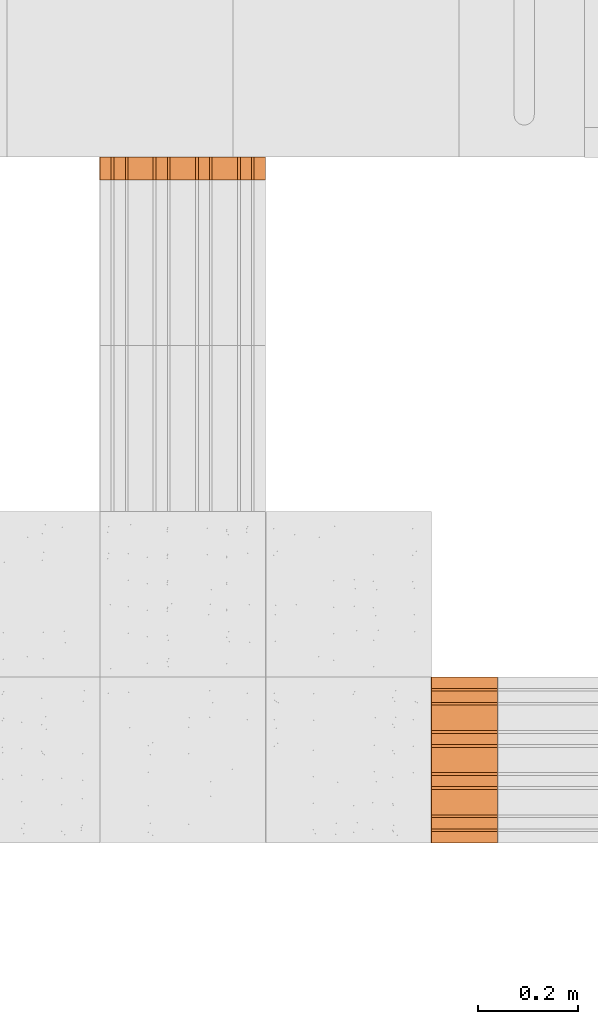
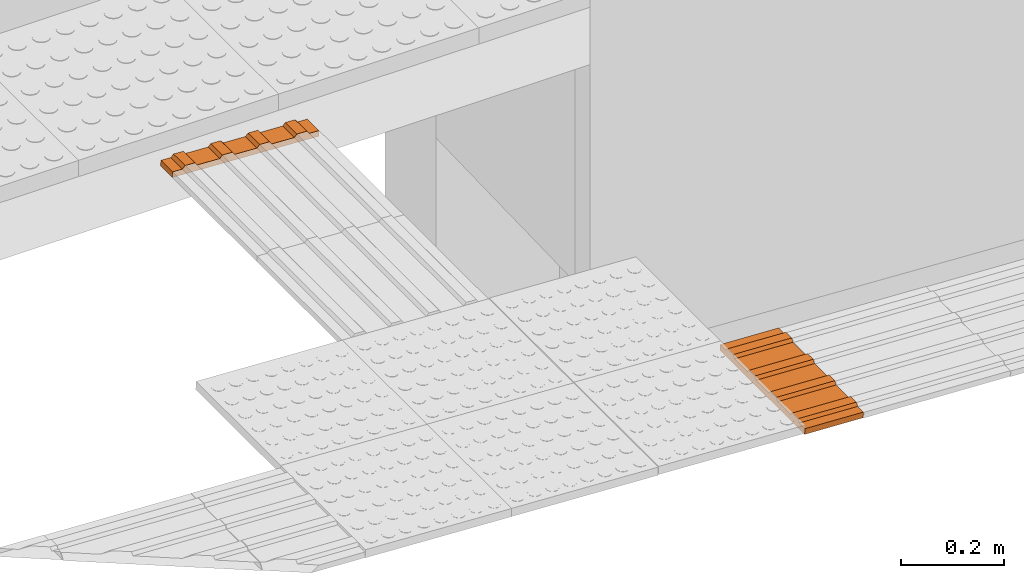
# One storey, part 217 of 237: 2 proxies.
"""IFC2X3 building model written with IfcOpenShell, lengths in millimetres."""

import ifcopenshell
import ifcopenshell.guid

model = None  # the IFC model being written
_history = None  # IfcOwnerHistory: only IFC2X3 demands one
_inside = {}  # id of a spatial element -> (the spatial element, [elements in it])
_under = {}  # id of a project, library or spatial element -> (it, [spatial elements below it])
_declared = {}  # id of a project -> (the project, [libraries it declares])
_typed = {}  # id of a type object -> (the type object, [elements of that type])
_made_of = {}  # id of a material, layer set ... -> (it, [elements and type objects made of it])


def new_model(schema):
    """Start an empty IFC model of exactly this schema.

    Asked for "IFC4X3", IfcOpenShell would pick the latest addendum, in which some entities
    have other attributes; the version numbers below select the first issue.
    IFC2X3 requires an IfcOwnerHistory on every rooted entity: one is made here for all.
    """
    global model, _history
    if schema == "IFC4X3":
        model = ifcopenshell.file(schema_version=(4, 3, 0, 0))
    else:
        model = ifcopenshell.file(schema=schema)
    _inside.clear()
    _under.clear()
    _declared.clear()
    _typed.clear()
    _made_of.clear()
    _history = None
    if model.schema == "IFC2X3":
        org = make("IfcOrganization", Name="unknown")
        user = make(
            "IfcPersonAndOrganization",
            ThePerson=make("IfcPerson", FamilyName="unknown"),
            TheOrganization=org,
        )
        app = make(
            "IfcApplication",
            ApplicationDeveloper=org,
            Version="unknown",
            ApplicationFullName="unknown",
            ApplicationIdentifier="unknown",
        )
        _history = make(
            "IfcOwnerHistory",
            OwningUser=user,
            OwningApplication=app,
            ChangeAction="ADDED",
            CreationDate=0,
        )
    return model


def make(cls, **values):
    """One entity of the class cls with the attributes given. An attribute that is None is left unset."""
    return model.create_entity(
        cls, **{name: value for name, value in values.items() if value is not None}
    )


def entity(cls, *values):
    """Any entity or typed value of the class cls, its attributes in the order of the schema. None: left unset."""
    e = model.create_entity(cls)
    for i, value in enumerate(values):
        if value is not None:
            e[i] = value
    return e


def rooted(cls, **values):
    """An entity with a GlobalId (a new one), such as an element, a storey or a relation."""
    return make(cls, GlobalId=ifcopenshell.guid.new(), OwnerHistory=_history, **values)


def si_unit(unit_type, name, prefix=None):
    """IfcSIUnit, for example si_unit("LENGTHUNIT", "METRE", prefix="MILLI")."""
    return make("IfcSIUnit", UnitType=unit_type, Prefix=prefix, Name=name)


def converted_unit(unit_type, name, factor, base, dimensions=None, offset=None):
    """IfcConversionBasedUnit, such as the inch: factor (a typed value) times the base unit."""
    return make(
        "IfcConversionBasedUnit"
        if offset is None
        else "IfcConversionBasedUnitWithOffset",
        ConversionOffset=offset,
        Dimensions=None
        if dimensions is None
        else entity("IfcDimensionalExponents", *dimensions),
        UnitType=unit_type,
        Name=name,
        ConversionFactor=make(
            "IfcMeasureWithUnit", ValueComponent=factor, UnitComponent=base
        ),
    )


def derived_unit(unit_type, elements):
    """IfcDerivedUnit: a product of units, each with its exponent."""
    return make(
        "IfcDerivedUnit",
        Elements=[
            make("IfcDerivedUnitElement", Unit=unit, Exponent=power)
            for unit, power in elements
        ],
        UnitType=unit_type,
    )


def money_unit(currency):
    """IfcMonetaryUnit."""
    return make("IfcMonetaryUnit", Currency=currency)


def assignment(units):
    """IfcUnitAssignment: the units of a project."""
    return None if units is None else make("IfcUnitAssignment", Units=units)


def point(xyz):
    """IfcCartesianPoint."""
    return None if xyz is None else make("IfcCartesianPoint", Coordinates=xyz)


def direction(xyz):
    """IfcDirection."""
    return None if xyz is None else make("IfcDirection", DirectionRatios=xyz)


def frame(location, z_axis=None, x_axis=None):
    """IfcAxis2Placement3D, a coordinate frame: its origin and axes. An axis left out is left unset."""
    return make(
        "IfcAxis2Placement3D",
        Location=point(location),
        Axis=direction(z_axis),
        RefDirection=direction(x_axis),
    )


def origin_with_axes():
    """The frame at (0, 0, 0) with the z axis (0, 0, 1) and the x axis (1, 0, 0) written out."""
    return frame((0.0, 0.0, 0.0), z_axis=(0.0, 0.0, 1.0), x_axis=(1.0, 0.0, 0.0))


def place(relative_to, where):
    """IfcLocalPlacement: puts the frame where relative to a parent placement (None: the world)."""
    return make(
        "IfcLocalPlacement", PlacementRelTo=relative_to, RelativePlacement=where
    )


def context(
    kind, dimensions, precision=None, world=None, true_north=None, identifier=None
):
    """IfcGeometricRepresentationContext, for example the 3D "Model" context."""
    return make(
        "IfcGeometricRepresentationContext",
        ContextIdentifier=identifier,
        ContextType=kind,
        CoordinateSpaceDimension=dimensions,
        Precision=precision,
        WorldCoordinateSystem=world,
        TrueNorth=true_north,
    )


def subcontext(parent, identifier, kind, view, scale=None):
    """IfcGeometricRepresentationSubContext, for example "Body" below "Model"."""
    return make(
        "IfcGeometricRepresentationSubContext",
        ContextIdentifier=identifier,
        ContextType=kind,
        ParentContext=parent,
        TargetScale=scale,
        TargetView=view,
    )


def project(units=None, contexts=None):
    """IfcProject with its units and contexts."""
    return rooted(
        "IfcProject",
        Name="project",
        RepresentationContexts=contexts,
        UnitsInContext=assignment(units),
    )


def spatial(cls, under=None, at=None, **own):
    """A site, building, storey or space (cls), placed at a placement, below another one or the project."""
    s = rooted(cls, ObjectPlacement=at, **own)
    if under is not None:
        _under.setdefault(under.id(), (under, []))[1].append(s)
    return s


def faces_of(points, faces, orient=None, outer=None):
    """IfcFace entities. A face is a list of loops; a loop is a list of indices into points, from 0.

    orient and outer hold one flag for each loop. By default every Orientation is true, the
    first loop of a face is its IfcFaceOuterBound and the others are IfcFaceBound.
    """
    made = []
    for i, loops in enumerate(faces):
        bounds = []
        for j, loop in enumerate(loops):
            is_outer = j == 0 if outer is None else outer[i][j]
            bounds.append(
                make(
                    "IfcFaceOuterBound" if is_outer else "IfcFaceBound",
                    Bound=make("IfcPolyLoop", Polygon=[points[k] for k in loop]),
                    Orientation=True if orient is None else orient[i][j],
                )
            )
        made.append(make("IfcFace", Bounds=bounds))
    return made


def open_shell(faces, orient=None, outer=None):
    """The faces of one IfcOpenShell. surface_model builds it on its shared points."""
    return ("IfcOpenShell", faces, orient, outer)


def surface_model(cls, points, shells):
    """IfcFaceBasedSurfaceModel or IfcShellBasedSurfaceModel (cls): surfaces that need not close."""
    shared = [point(p) for p in points]
    made = [make(c, CfsFaces=faces_of(shared, fs, o, b)) for c, fs, o, b in shells]
    if cls == "IfcFaceBasedSurfaceModel":
        return make(cls, FbsmFaces=made)
    return make(cls, SbsmBoundary=made)


def shape(context_of_items, identifier, shape_type, items):
    """IfcShapeRepresentation: the items that make up one representation, for example the "Body"."""
    return make(
        "IfcShapeRepresentation",
        ContextOfItems=context_of_items,
        RepresentationIdentifier=identifier,
        RepresentationType=shape_type,
        Items=items,
    )


def made_of(thing, what):
    """Note that an element or type object is made of a material, layer set ...; save() writes the relation."""
    if what is not None:
        _made_of.setdefault(what.id(), (what, []))[1].append(thing)
    return thing


def type_object(cls, material=None, **own):
    """A type object (cls), such as IfcWallType, which elements share."""
    return made_of(rooted(cls, **own), material)


def element(
    cls,
    number,
    at=None,
    inside=None,
    cuts=None,
    type_object=None,
    material=None,
    context=None,
    identifier="Body",
    shape_type=None,
    held_by="IfcProductDefinitionShape",
    body=None,
    shapes=None,
    **own,
):
    """One element of the class cls, such as IfcWall. Its Tag is "e" and its number.

    at: its placement. inside: the storey or other place that contains it. cuts: it is an
    opening in that element (IfcRelVoidsElement). A single representation is given by context,
    identifier, shape_type and body (its items); several are given by shapes. held_by: the class
    of the entity that holds the representations. save() writes the other relations.
    """
    e = rooted(cls, Tag="e%d" % number, ObjectPlacement=at, **own)
    if body is not None:
        shapes = [shape(context, identifier, shape_type, body)]
    if shapes is not None:
        e.Representation = make(held_by, Representations=shapes)
    if inside is not None:
        _inside.setdefault(inside.id(), (inside, []))[1].append(e)
    if cuts is not None:
        rooted(
            "IfcRelVoidsElement", RelatingBuildingElement=cuts, RelatedOpeningElement=e
        )
    if type_object is not None:
        _typed.setdefault(type_object.id(), (type_object, []))[1].append(e)
    return made_of(e, material)


def aggregate(whole, parts):
    """IfcRelAggregates: a whole, such as a stair, and the parts it consists of."""
    return rooted("IfcRelAggregates", RelatingObject=whole, RelatedObjects=parts)


def save(model, path):
    """Write the relations noted so far, then the file.

    IfcRelAggregates (storeys below a building ...), IfcRelContainedInSpatialStructure (elements
    in a storey), IfcRelDefinesByType, IfcRelAssociatesMaterial and IfcRelDeclares: one each for
    every whole, place, type object, material and project.
    """
    for whole, parts in _under.values():
        aggregate(whole, parts)
    for where, things in _inside.values():
        rooted(
            "IfcRelContainedInSpatialStructure",
            RelatedElements=things,
            RelatingStructure=where,
        )
    for kind, things in _typed.values():
        rooted("IfcRelDefinesByType", RelatedObjects=things, RelatingType=kind)
    for what, things in _made_of.values():
        rooted("IfcRelAssociatesMaterial", RelatedObjects=things, RelatingMaterial=what)
    for by, libraries in _declared.values():
        rooted("IfcRelDeclares", RelatingContext=by, RelatedDefinitions=libraries)
    model.write(path)


model = new_model("IFC2X3")

# Units and contexts
model_context = context("Model", 3, precision=0.01, world=origin_with_axes(), true_north=direction((0.0, 1.0)))
body_context = subcontext(model_context, "Body", "Model", "MODEL_VIEW")
ifc_project = project(units=[si_unit("LENGTHUNIT", "METRE", prefix="MILLI"), si_unit("AREAUNIT", "SQUARE_METRE"), si_unit("VOLUMEUNIT", "CUBIC_METRE"), converted_unit("PLANEANGLEUNIT", "DEGREE", entity("IfcPlaneAngleMeasure", 0.0174532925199), si_unit("PLANEANGLEUNIT", "RADIAN"), dimensions=[0, 0, 0, 0, 0, 0, 0]), money_unit("USD"), converted_unit("TIMEUNIT", "Year", entity("IfcTimeMeasure", 31556926.0), si_unit("TIMEUNIT", "SECOND"), dimensions=[0, 0, 1, 0, 0, 0, 0]), si_unit("MASSUNIT", "GRAM", prefix="KILO"), si_unit("THERMODYNAMICTEMPERATUREUNIT", "DEGREE_CELSIUS"), si_unit("LUMINOUSINTENSITYUNIT", "LUMEN"), si_unit("ENERGYUNIT", "JOULE", prefix="MEGA"), derived_unit("THERMALCONDUCTANCEUNIT", [(si_unit("POWERUNIT", "WATT"), 1), (si_unit("LENGTHUNIT", "METRE"), -1), (si_unit("THERMODYNAMICTEMPERATUREUNIT", "KELVIN"), -1)]), derived_unit("SPECIFICHEATCAPACITYUNIT", [(si_unit("ENERGYUNIT", "JOULE"), 1), (si_unit("MASSUNIT", "GRAM", prefix="KILO"), -1), (si_unit("THERMODYNAMICTEMPERATUREUNIT", "KELVIN"), -1)]), derived_unit("MASSDENSITYUNIT", [(si_unit("MASSUNIT", "GRAM", prefix="KILO"), 1), (si_unit("VOLUMEUNIT", "CUBIC_METRE"), -1)])], contexts=[model_context])

# Site, building, storey
site_placement = place(None, origin_with_axes())
site = spatial("IfcSite", under=ifc_project, at=site_placement, Name="Local", CompositionType="ELEMENT")
building_placement = place(site_placement, origin_with_axes())
building = spatial("IfcBuilding", under=site, at=building_placement, Name="Construção", CompositionType="ELEMENT")
storey_placement = place(building_placement, origin_with_axes())
storey = spatial("IfcBuildingStorey", under=building, at=storey_placement, Name="Pavimento Térreo", CompositionType="ELEMENT", Elevation=0.0)

# Proxies
building_element_proxy_type = type_object("IfcBuildingElementProxyType", Name="Piso Direcional 27", PredefinedType="NOTDEFINED")
proxy_1_placement = place(storey_placement, frame((41988.6697517, 10834.0941893, -3144.01574893), z_axis=(0.0, 0.0, 1.0), x_axis=(-1.0, 0.0, 0.0)))
element("IfcBuildingElementProxy", 1, at=proxy_1_placement, inside=storey, type_object=building_element_proxy_type, Name="Objeto-0055", context=body_context, shape_type="SurfaceModel", body=[
    surface_model("IfcShellBasedSurfaceModel", [(-0.196792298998, -47.258225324, 4.02371099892), (131.320909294, -47.258225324, 10.4559997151), (130.995244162, -41.665004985, 17.1147072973), (-0.522457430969, -41.665004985, 10.6824185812)], [open_shell([[[0, 1, 2, 3]]])]),
    surface_model("IfcShellBasedSurfaceModel", [(131.972239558, -153.529411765, -2.86141544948), (131.972239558, 176.470588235, -2.86141544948), (131.320909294, 176.470588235, 10.4559997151), (131.320909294, 154.097706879, 10.4559997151), (130.995244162, 148.50448654, 17.1147072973), (130.995244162, 126.131605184, 17.1147072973), (131.320909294, 120.538384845, 10.4559997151), (131.320909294, 70.1994017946, 10.4559997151), (130.995244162, 64.6061814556, 17.1147072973), (130.995244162, 42.2333000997, 17.1147072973), (131.320909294, 36.6400797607, 10.4559997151), (131.320909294, -13.6989032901, 10.4559997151), (130.995244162, -19.2921236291, 17.1147072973), (130.995244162, -41.665004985, 17.1147072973), (131.320909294, -47.258225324, 10.4559997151), (131.320909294, -97.5972083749, 10.4559997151), (130.995244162, -103.190428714, 17.1147072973), (130.995244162, -125.56331007, 17.1147072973), (131.320909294, -131.156530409, 10.4559997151), (131.320909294, -153.529411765, 10.4559997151)], [open_shell([[[0, 1, 2, 3, 4, 5, 6, 7, 8, 9, 10, 11, 12, 13, 14, 15, 16, 17, 18, 19]]])]),
    surface_model("IfcShellBasedSurfaceModel", [(-0.522457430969, -19.2921236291, 10.6824185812), (130.995244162, -19.2921236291, 17.1147072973), (131.320909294, -13.6989032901, 10.4559997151), (-0.196792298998, -13.6989032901, 4.02371099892)], [open_shell([[[0, 1, 2, 3]]])]),
    surface_model("IfcShellBasedSurfaceModel", [(-0.522457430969, -103.190428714, 10.6824185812), (130.995244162, -103.190428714, 17.1147072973), (131.320909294, -97.5972083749, 10.4559997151), (-0.196792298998, -97.5972083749, 4.02371099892)], [open_shell([[[0, 1, 2, 3]]])]),
    surface_model("IfcShellBasedSurfaceModel", [(-0.522457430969, 64.6061814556, 10.6824185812), (130.995244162, 64.6061814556, 17.1147072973), (131.320909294, 70.1994017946, 10.4559997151), (-0.196792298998, 70.1994017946, 4.02371099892)], [open_shell([[[0, 1, 2, 3]]])]),
    surface_model("IfcShellBasedSurfaceModel", [(-0.196792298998, 36.6400797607, 4.02371099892), (131.320909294, 36.6400797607, 10.4559997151), (130.995244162, 42.2333000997, 17.1147072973), (-0.522457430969, 42.2333000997, 10.6824185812)], [open_shell([[[0, 1, 2, 3]]])]),
    surface_model("IfcShellBasedSurfaceModel", [(-0.196792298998, -131.156530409, 4.02371099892), (131.320909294, -131.156530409, 10.4559997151), (130.995244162, -125.56331007, 17.1147072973), (-0.522457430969, -125.56331007, 10.6824185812)], [open_shell([[[0, 1, 2, 3]]])]),
    surface_model("IfcShellBasedSurfaceModel", [(-0.196792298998, 176.470588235, 4.02371099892), (-0.196792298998, 154.097706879, 4.02371099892), (131.320909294, 154.097706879, 10.4559997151), (131.320909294, 176.470588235, 10.4559997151)], [open_shell([[[0, 1, 2, 3]]])]),
    surface_model("IfcShellBasedSurfaceModel", [(-0.196792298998, 120.538384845, 4.02371099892), (131.320909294, 120.538384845, 10.4559997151), (130.995244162, 126.131605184, 17.1147072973), (-0.522457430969, 126.131605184, 10.6824185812)], [open_shell([[[0, 1, 2, 3]]])]),
    surface_model("IfcShellBasedSurfaceModel", [(-0.522457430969, 148.50448654, 10.6824185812), (130.995244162, 148.50448654, 17.1147072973), (131.320909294, 154.097706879, 10.4559997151), (-0.196792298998, 154.097706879, 4.02371099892)], [open_shell([[[0, 1, 2, 3]]])]),
    surface_model("IfcShellBasedSurfaceModel", [(-0.196792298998, 36.6400797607, 4.02371099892), (-0.196792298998, -13.6989032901, 4.02371099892), (131.320909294, -13.6989032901, 10.4559997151), (131.320909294, 36.6400797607, 10.4559997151)], [open_shell([[[0, 1, 2, 3]]])]),
    surface_model("IfcShellBasedSurfaceModel", [(-0.196792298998, 120.538384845, 4.02371099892), (-0.196792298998, 70.1994017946, 4.02371099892), (131.320909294, 70.1994017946, 10.4559997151), (131.320909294, 120.538384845, 10.4559997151)], [open_shell([[[0, 1, 2, 3]]])]),
    surface_model("IfcShellBasedSurfaceModel", [(-0.522457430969, 148.50448654, 10.6824185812), (-0.522457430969, 126.131605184, 10.6824185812), (130.995244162, 126.131605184, 17.1147072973), (130.995244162, 148.50448654, 17.1147072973)], [open_shell([[[0, 1, 2, 3]]])]),
    surface_model("IfcShellBasedSurfaceModel", [(-0.196792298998, 120.538384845, 4.02371099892), (-0.522457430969, 126.131605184, 10.6824185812), (-0.522457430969, 148.50448654, 10.6824185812), (-0.196792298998, 154.097706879, 4.02371099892), (-0.196792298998, 176.470588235, 4.02371099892), (0.454537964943, 176.470588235, -9.29370416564), (0.454537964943, -153.529411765, -9.29370416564), (-0.196792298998, -153.529411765, 4.02371099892), (-0.196792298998, -131.156530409, 4.02371099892), (-0.522457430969, -125.56331007, 10.6824185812), (-0.522457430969, -103.190428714, 10.6824185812), (-0.196792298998, -97.5972083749, 4.02371099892), (-0.196792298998, -47.258225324, 4.02371099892), (-0.522457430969, -41.665004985, 10.6824185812), (-0.522457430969, -19.2921236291, 10.6824185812), (-0.196792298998, -13.6989032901, 4.02371099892), (-0.196792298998, 36.6400797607, 4.02371099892), (-0.522457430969, 42.2333000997, 10.6824185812), (-0.522457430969, 64.6061814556, 10.6824185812), (-0.196792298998, 70.1994017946, 4.02371099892)], [open_shell([[[0, 1, 2, 3, 4, 5, 6, 7, 8, 9, 10, 11, 12, 13, 14, 15, 16, 17, 18, 19]]])]),
    surface_model("IfcShellBasedSurfaceModel", [(130.995244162, -41.665004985, 17.1147072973), (130.995244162, -19.2921236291, 17.1147072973), (-0.522457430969, -19.2921236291, 10.6824185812), (-0.522457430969, -41.665004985, 10.6824185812)], [open_shell([[[0, 1, 2, 3]]])]),
    surface_model("IfcShellBasedSurfaceModel", [(-0.196792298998, -47.258225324, 4.02371099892), (-0.196792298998, -97.5972083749, 4.02371099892), (131.320909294, -97.5972083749, 10.4559997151), (131.320909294, -47.258225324, 10.4559997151)], [open_shell([[[0, 1, 2, 3]]])]),
    surface_model("IfcShellBasedSurfaceModel", [(130.995244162, 42.2333000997, 17.1147072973), (130.995244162, 64.6061814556, 17.1147072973), (-0.522457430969, 64.6061814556, 10.6824185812), (-0.522457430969, 42.2333000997, 10.6824185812)], [open_shell([[[0, 1, 2, 3]]])]),
    surface_model("IfcShellBasedSurfaceModel", [(130.995244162, -125.56331007, 17.1147072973), (130.995244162, -103.190428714, 17.1147072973), (-0.522457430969, -103.190428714, 10.6824185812), (-0.522457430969, -125.56331007, 10.6824185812)], [open_shell([[[0, 1, 2, 3]]])]),
    surface_model("IfcShellBasedSurfaceModel", [(131.972239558, 176.470588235, -2.86141544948), (0.454537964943, 176.470588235, -9.29370416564), (-0.196792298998, 176.470588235, 4.02371099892), (131.320909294, 176.470588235, 10.4559997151)], [open_shell([[[0, 1, 2, 3]]])]),
    surface_model("IfcShellBasedSurfaceModel", [(131.972239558, -153.529411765, -2.86141544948), (0.454537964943, -153.529411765, -9.29370416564), (0.454537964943, 176.470588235, -9.29370416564), (131.972239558, 176.470588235, -2.86141544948)], [open_shell([[[0, 1, 2, 3]]])]),
    surface_model("IfcShellBasedSurfaceModel", [(131.320909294, -153.529411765, 10.4559997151), (131.320909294, -131.156530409, 10.4559997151), (-0.196792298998, -131.156530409, 4.02371099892), (-0.196792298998, -153.529411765, 4.02371099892)], [open_shell([[[0, 1, 2, 3]]])]),
    surface_model("IfcShellBasedSurfaceModel", [(0.454537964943, -153.529411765, -9.29370416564), (131.972239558, -153.529411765, -2.86141544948), (131.320909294, -153.529411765, 10.4559997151), (-0.196792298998, -153.529411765, 4.02371099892)], [open_shell([[[0, 1, 2, 3]]])]),
])
proxy_2_placement = place(storey_placement, frame((41350.5242602, 12023.3079799, -3104.51928171), z_axis=(0.0, 0.0, 1.0), x_axis=(0.0, -1.0, 0.0)))
element("IfcBuildingElementProxy", 2, at=proxy_2_placement, inside=storey, type_object=building_element_proxy_type, Name="Objeto-0055", context=body_context, shape_type="SurfaceModel", body=[
    surface_model("IfcShellBasedSurfaceModel", [(0.0, -46.9837561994, 6.48810385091), (45.3403941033, -46.9837561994, 6.48810385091), (45.3403941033, -41.0504057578, 12.8539432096), (0.0, -41.0504057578, 12.8539432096)], [open_shell([[[0, 1, 2, 3]]])]),
    surface_model("IfcShellBasedSurfaceModel", [(45.3403941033, -153.805759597, -1.28379652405), (45.3403941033, 175.744996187, -18.4971448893), (45.3403941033, 176.44048501, -5.18196283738), (45.3403941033, 154.098060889, -4.01495616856), (45.3403941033, 148.860199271, 2.9343865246), (45.3403941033, 126.51777515, 4.10139319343), (45.3403941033, 120.584424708, -2.26444616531), (45.3403941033, 70.3139704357, 0.361318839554), (45.3403941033, 65.0761088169, 7.31066153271), (45.3403941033, 42.7336846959, 8.47766820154), (45.3403941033, 36.8003342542, 2.1118288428), (45.3403941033, -13.470120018, 4.73759384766), (45.3403941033, -18.7079816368, 11.6869365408), (45.3403941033, -41.0504057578, 12.8539432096), (45.3403941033, -46.9837561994, 6.48810385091), (45.3403941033, -97.2542104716, 9.11386885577), (45.3403941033, -102.49207209, 16.0632115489), (45.3403941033, -124.834496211, 17.2302182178), (45.3403941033, -130.767846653, 10.864378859), (45.3403941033, -153.110270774, 12.0313855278)], [open_shell([[[0, 1, 2, 3, 4, 5, 6, 7, 8, 9, 10, 11, 12, 13, 14, 15, 16, 17, 18, 19]]])]),
    surface_model("IfcShellBasedSurfaceModel", [(0.0, -18.7079816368, 11.6869365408), (45.3403941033, -18.7079816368, 11.6869365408), (45.3403941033, -13.470120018, 4.73759384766), (0.0, -13.470120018, 4.73759384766)], [open_shell([[[0, 1, 2, 3]]])]),
    surface_model("IfcShellBasedSurfaceModel", [(0.0, -102.49207209, 16.0632115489), (45.3403941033, -102.49207209, 16.0632115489), (45.3403941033, -97.2542104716, 9.11386885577), (0.0, -97.2542104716, 9.11386885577)], [open_shell([[[0, 1, 2, 3]]])]),
    surface_model("IfcShellBasedSurfaceModel", [(0.0, 65.0761088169, 7.31066153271), (45.3403941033, 65.0761088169, 7.31066153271), (45.3403941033, 70.3139704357, 0.361318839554), (0.0, 70.3139704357, 0.361318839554)], [open_shell([[[0, 1, 2, 3]]])]),
    surface_model("IfcShellBasedSurfaceModel", [(0.0, 36.8003342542, 2.1118288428), (45.3403941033, 36.8003342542, 2.1118288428), (45.3403941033, 42.7336846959, 8.47766820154), (0.0, 42.7336846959, 8.47766820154)], [open_shell([[[0, 1, 2, 3]]])]),
    surface_model("IfcShellBasedSurfaceModel", [(0.0, -130.767846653, 10.864378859), (45.3403941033, -130.767846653, 10.864378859), (45.3403941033, -124.834496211, 17.2302182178), (0.0, -124.834496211, 17.2302182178)], [open_shell([[[0, 1, 2, 3]]])]),
    surface_model("IfcShellBasedSurfaceModel", [(0.0, 176.44048501, -5.18196283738), (0.0, 154.098060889, -4.01495616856), (45.3403941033, 154.098060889, -4.01495616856), (45.3403941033, 176.44048501, -5.18196283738)], [open_shell([[[0, 1, 2, 3]]])]),
    surface_model("IfcShellBasedSurfaceModel", [(0.0, 120.584424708, -2.26444616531), (45.3403941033, 120.584424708, -2.26444616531), (45.3403941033, 126.51777515, 4.10139319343), (0.0, 126.51777515, 4.10139319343)], [open_shell([[[0, 1, 2, 3]]])]),
    surface_model("IfcShellBasedSurfaceModel", [(0.0, 148.860199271, 2.9343865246), (45.3403941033, 148.860199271, 2.9343865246), (45.3403941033, 154.098060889, -4.01495616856), (0.0, 154.098060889, -4.01495616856)], [open_shell([[[0, 1, 2, 3]]])]),
    surface_model("IfcShellBasedSurfaceModel", [(0.0, 36.8003342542, 2.1118288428), (0.0, -13.470120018, 4.73759384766), (45.3403941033, -13.470120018, 4.73759384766), (45.3403941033, 36.8003342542, 2.1118288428)], [open_shell([[[0, 1, 2, 3]]])]),
    surface_model("IfcShellBasedSurfaceModel", [(0.0, 120.584424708, -2.26444616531), (0.0, 70.3139704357, 0.361318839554), (45.3403941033, 70.3139704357, 0.361318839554), (45.3403941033, 120.584424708, -2.26444616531)], [open_shell([[[0, 1, 2, 3]]])]),
    surface_model("IfcShellBasedSurfaceModel", [(0.0, 148.860199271, 2.9343865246), (0.0, 126.51777515, 4.10139319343), (45.3403941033, 126.51777515, 4.10139319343), (45.3403941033, 148.860199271, 2.9343865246)], [open_shell([[[0, 1, 2, 3]]])]),
    surface_model("IfcShellBasedSurfaceModel", [(0.0, 120.584424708, -2.26444616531), (0.0, 126.51777515, 4.10139319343), (0.0, 148.860199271, 2.9343865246), (0.0, 154.098060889, -4.01495616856), (0.0, 176.44048501, -5.18196283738), (0.0, 175.744996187, -18.4971448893), (0.0, -153.805759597, -1.28379652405), (0.0, -153.110270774, 12.0313855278), (0.0, -130.767846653, 10.864378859), (0.0, -124.834496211, 17.2302182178), (0.0, -102.49207209, 16.0632115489), (0.0, -97.2542104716, 9.11386885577), (0.0, -46.9837561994, 6.48810385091), (0.0, -41.0504057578, 12.8539432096), (0.0, -18.7079816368, 11.6869365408), (0.0, -13.470120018, 4.73759384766), (0.0, 36.8003342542, 2.1118288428), (0.0, 42.7336846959, 8.47766820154), (0.0, 65.0761088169, 7.31066153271), (0.0, 70.3139704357, 0.361318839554)], [open_shell([[[0, 1, 2, 3, 4, 5, 6, 7, 8, 9, 10, 11, 12, 13, 14, 15, 16, 17, 18, 19]]])]),
    surface_model("IfcShellBasedSurfaceModel", [(45.3403941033, -41.0504057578, 12.8539432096), (45.3403941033, -18.7079816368, 11.6869365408), (0.0, -18.7079816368, 11.6869365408), (0.0, -41.0504057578, 12.8539432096)], [open_shell([[[0, 1, 2, 3]]])]),
    surface_model("IfcShellBasedSurfaceModel", [(0.0, -46.9837561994, 6.48810385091), (0.0, -97.2542104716, 9.11386885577), (45.3403941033, -97.2542104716, 9.11386885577), (45.3403941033, -46.9837561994, 6.48810385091)], [open_shell([[[0, 1, 2, 3]]])]),
    surface_model("IfcShellBasedSurfaceModel", [(45.3403941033, 42.7336846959, 8.47766820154), (45.3403941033, 65.0761088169, 7.31066153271), (0.0, 65.0761088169, 7.31066153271), (0.0, 42.7336846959, 8.47766820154)], [open_shell([[[0, 1, 2, 3]]])]),
    surface_model("IfcShellBasedSurfaceModel", [(45.3403941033, -124.834496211, 17.2302182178), (45.3403941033, -102.49207209, 16.0632115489), (0.0, -102.49207209, 16.0632115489), (0.0, -124.834496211, 17.2302182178)], [open_shell([[[0, 1, 2, 3]]])]),
    surface_model("IfcShellBasedSurfaceModel", [(45.3403941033, 175.744996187, -18.4971448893), (0.0, 175.744996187, -18.4971448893), (0.0, 176.44048501, -5.18196283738), (45.3403941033, 176.44048501, -5.18196283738)], [open_shell([[[0, 1, 2, 3]]])]),
    surface_model("IfcShellBasedSurfaceModel", [(45.3403941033, -153.805759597, -1.28379652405), (0.0, -153.805759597, -1.28379652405), (0.0, 175.744996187, -18.4971448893), (45.3403941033, 175.744996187, -18.4971448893)], [open_shell([[[0, 1, 2, 3]]])]),
    surface_model("IfcShellBasedSurfaceModel", [(45.3403941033, -153.110270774, 12.0313855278), (45.3403941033, -130.767846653, 10.864378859), (0.0, -130.767846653, 10.864378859), (0.0, -153.110270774, 12.0313855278)], [open_shell([[[0, 1, 2, 3]]])]),
    surface_model("IfcShellBasedSurfaceModel", [(0.0, -153.805759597, -1.28379652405), (45.3403941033, -153.805759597, -1.28379652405), (45.3403941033, -153.110270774, 12.0313855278), (0.0, -153.110270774, 12.0313855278)], [open_shell([[[0, 1, 2, 3]]])]),
])

save(model, "model.ifc")
